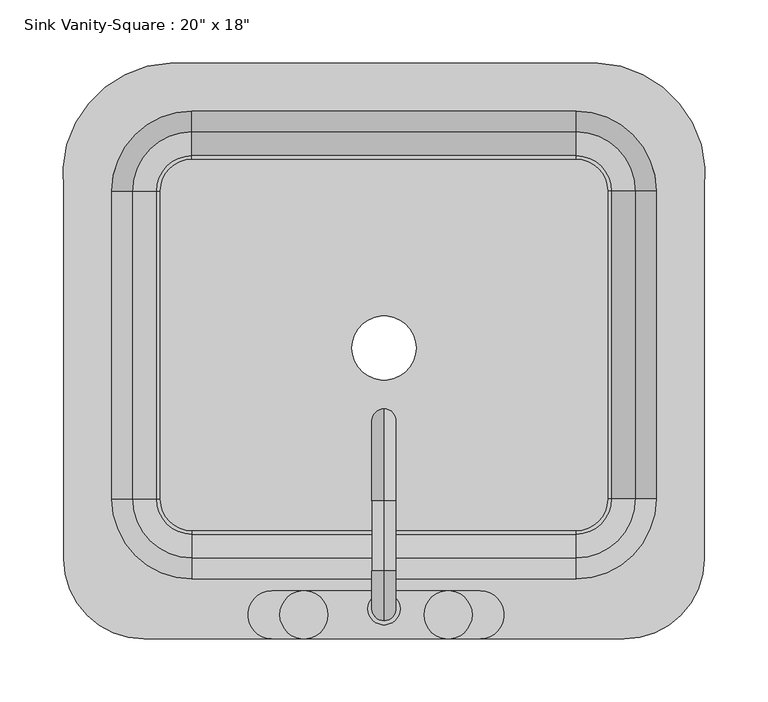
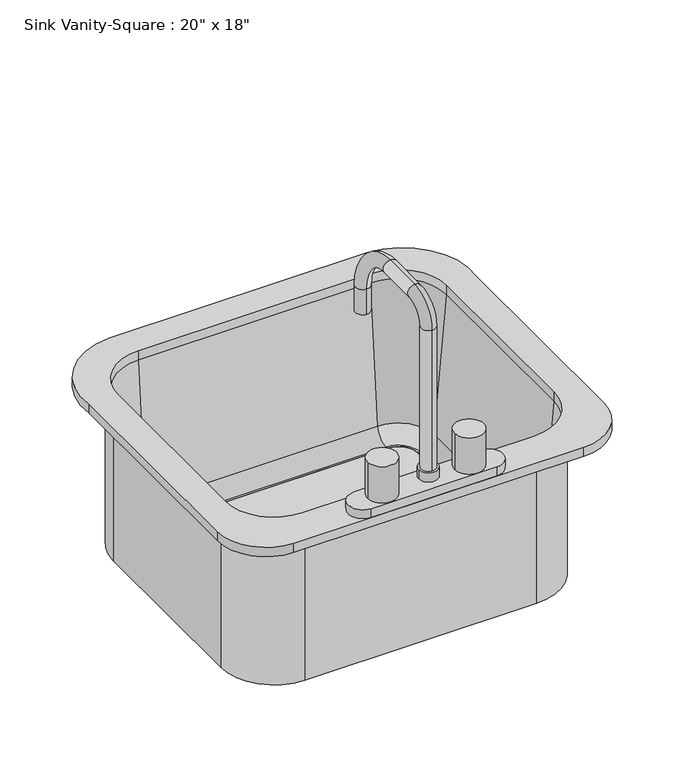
"""IFC4 building model written with IfcOpenShell, lengths in millimetres: flow terminal geometry."""

from ifc_helpers import new_model, si_unit, point, frame, frame_2d, origin, place, context, project, spatial, polyline, circle_curve, ellipse_curve, trimmed, segment, composite_curve, outline, extrude, source, transform, mapped, element, save
from ifc_brep_helpers import plane_surface, cylinder_surface, revolved_surface, advanced_brep


def flow_terminal_4d0de4d3(model_context):
    return source(origin(), model_context, "Body", "SolidModel", [
        advanced_brep(
        [(-153.9606923, 277.0545989, 800.1), (-238.3107593, 175.4545982, 800.1), (-238.3107593, -116.6454011, 800.1), (-174.8107593, -180.1454011, 800.1), (206.1892406, -180.1454011, 800.1), (269.6892406, -116.6454011, 800.1), (269.6892406, 175.4545989, 800.1), (185.3391735, 277.0545989, 800.1), (168.0892406, -132.5204011, 800.1), (-136.7107594, -132.5204011, 800.1), (-200.2107594, -69.0204011, 800.1), (-200.2107594, 175.4545989, 800.1), (-136.7107594, 238.9545989, 800.1), (168.0892406, 238.9545989, 800.1), (231.5892406, 175.4545989, 800.1), (231.5892406, -69.0204011, 800.1), (-153.9606923, 277.0545989, 787.4), (185.3391735, 277.0545989, 787.4), (269.6892406, 175.4545989, 787.4), (269.6892406, -116.6454011, 787.4), (206.1892406, -180.1454011, 787.4), (-174.8107593, -180.1454011, 787.4), (-238.3107593, -116.6454011, 787.4), (-238.3107593, 175.4545982, 787.4), (237.9392406, -69.0204011, 787.4), (237.9392406, 175.4545989, 787.4), (168.0892406, 245.3045989, 787.4), (-136.7107594, 245.3045989, 787.4), (-206.5607594, 175.4545989, 787.4), (-206.5607594, -69.0204011, 787.4), (-136.7107594, -138.8704011, 787.4), (168.0892406, -138.8704011, 787.4), (231.5892406, -69.0204011, 787.4), (168.0892406, -132.5204011, 787.4), (231.5892406, 175.4545989, 787.4), (168.0892406, 238.9545989, 787.4), (-136.7107594, 238.9545989, 787.4), (-200.2107594, 175.4545989, 787.4), (-200.2107594, -69.0204011, 787.4), (-136.7107594, -132.5204011, 787.4), (237.9392406, -69.0204011, 571.5), (168.0892406, -138.8704011, 571.5), (168.0892406, -94.4204011, 571.5), (193.4892406, -69.0204011, 571.5), (168.0892406, -94.4204011, 581.025), (193.4892406, -69.0204011, 581.025), (168.0892406, -97.0088193, 581.025), (196.0776588, -69.0204011, 581.025), (168.0892406, -115.9863283, 598.4146831), (215.0551678, -69.0204011, 598.4146831), (237.9392406, 175.4545989, 571.5), (193.4892406, 175.4545989, 571.5), (193.4892406, 175.4545989, 581.025), (196.0776588, 175.4545989, 581.025), (215.0551678, 175.4545989, 598.4146831), (168.0892406, 245.3045989, 571.5), (168.0892406, 200.8545989, 571.5), (168.0892406, 200.8545989, 581.025), (168.0892406, 203.4430171, 581.025), (168.0892406, 222.4205261, 598.4146831), (-136.7107594, 245.3045989, 571.5), (-136.7107594, 200.8545989, 571.5), (-136.7107594, 200.8545989, 581.025), (-136.7107594, 203.4430171, 581.025), (-136.7107594, 222.4205261, 598.4146831), (-206.5607594, 175.4545989, 571.5), (-162.1107594, 175.4545989, 571.5), (-162.1107594, 175.4545989, 581.025), (-164.6991776, 175.4545989, 581.025), (-183.6766866, 175.4545989, 598.4146831), (-206.5607594, -69.0204011, 571.5), (-162.1107594, -69.0204011, 571.5), (-162.1107594, -69.0204011, 581.025), (-164.6991776, -69.0204011, 581.025), (-183.6766866, -69.0204011, 598.4146831), (-136.7107594, -138.8704011, 571.5), (-136.7107594, -94.4204011, 571.5), (-136.7107594, -94.4204011, 581.025), (-136.7107594, -97.0088193, 581.025), (-136.7107594, -115.9863283, 598.4146831)],
        [
            (0, 1, circle_curve(frame((-150.1534746, 188.0793432, 800.1), z_axis=(0.0, 0.0, 1.0), x_axis=(1.0, 0.0, 0.0)), 89.0566732)),
            (1, 2),
            (2, 3, circle_curve(frame((-174.8107593, -116.6454011, 800.1), z_axis=(0.0, 0.0, 1.0), x_axis=(1.0, 0.0, 0.0)), 63.5)),
            (3, 4),
            (4, 5, circle_curve(frame((206.1892406, -116.6454011, 800.1), z_axis=(0.0, 0.0, 1.0), x_axis=(1.0, 0.0, 0.0)), 63.5)),
            (5, 6),
            (6, 7, circle_curve(frame((181.5319557, 188.0793432, 800.1), z_axis=(0.0, 0.0, 1.0), x_axis=(1.0, 0.0, 0.0)), 89.0566732)),
            (7, 0),
            (8, 9),
            (9, 10, circle_curve(frame((-136.7107594, -69.0204011, 800.1), z_axis=(0.0, 0.0, -1.0), x_axis=(1.0, 0.0, 0.0)), 63.5)),
            (10, 11),
            (11, 12, circle_curve(frame((-136.7107594, 175.4545989, 800.1), z_axis=(0.0, 0.0, -1.0), x_axis=(1.0, 0.0, 0.0)), 63.5)),
            (12, 13),
            (13, 14, circle_curve(frame((168.0892406, 175.4545989, 800.1), z_axis=(0.0, 0.0, -1.0), x_axis=(1.0, 0.0, 0.0)), 63.5)),
            (14, 15),
            (15, 8, circle_curve(frame((168.0892406, -69.0204011, 800.1), z_axis=(0.0, 0.0, -1.0), x_axis=(1.0, 0.0, 0.0)), 63.5)),
            (16, 17),
            (17, 18, circle_curve(frame((181.5319557, 188.0793432, 787.4), z_axis=(0.0, 0.0, -1.0), x_axis=(1.0, 0.0, 0.0)), 89.0566732)),
            (18, 19),
            (19, 20, circle_curve(frame((206.1892406, -116.6454011, 787.4), z_axis=(0.0, 0.0, -1.0), x_axis=(1.0, 0.0, 0.0)), 63.5)),
            (20, 21),
            (21, 22, circle_curve(frame((-174.8107593, -116.6454011, 787.4), z_axis=(0.0, 0.0, -1.0), x_axis=(1.0, 0.0, 0.0)), 63.5)),
            (22, 23),
            (23, 16, circle_curve(frame((-150.1534746, 188.0793432, 787.4), z_axis=(0.0, 0.0, -1.0), x_axis=(1.0, 0.0, 0.0)), 89.0566732)),
            (24, 25),
            (25, 26, circle_curve(frame((168.0892406, 175.4545989, 787.4), z_axis=(0.0, 0.0, 1.0), x_axis=(1.0, 0.0, 0.0)), 69.85)),
            (26, 27),
            (27, 28, circle_curve(frame((-136.7107594, 175.4545989, 787.4), z_axis=(0.0, 0.0, 1.0), x_axis=(0.0, 1.0, 0.0)), 69.85)),
            (28, 29),
            (29, 30, circle_curve(frame((-136.7107594, -69.0204011, 787.4), z_axis=(0.0, 0.0, 1.0), x_axis=(-1.0, 0.0, 0.0)), 69.85)),
            (30, 31),
            (31, 24, circle_curve(frame((168.0892406, -69.0204011, 787.4), z_axis=(0.0, 0.0, 1.0), x_axis=(0.0, -1.0, 0.0)), 69.85)),
            (7, 17),
            (16, 0),
            (6, 18),
            (5, 19),
            (4, 20),
            (3, 21),
            (2, 22),
            (1, 23),
            (15, 32),
            (32, 33, circle_curve(frame((168.0892406, -69.0204011, 787.4), z_axis=(0.0, 0.0, -1.0), x_axis=(1.0, 0.0, 0.0)), 63.5)),
            (33, 8),
            (14, 34),
            (34, 32),
            (13, 35),
            (35, 34, circle_curve(frame((168.0892406, 175.4545989, 787.4), z_axis=(0.0, 0.0, -1.0), x_axis=(1.0, 0.0, 0.0)), 63.5)),
            (12, 36),
            (36, 35),
            (11, 37),
            (37, 36, circle_curve(frame((-136.7107594, 175.4545989, 787.4), z_axis=(0.0, 0.0, -1.0), x_axis=(1.0, 0.0, 0.0)), 63.5)),
            (10, 38),
            (38, 37),
            (9, 39),
            (39, 38, circle_curve(frame((-136.7107594, -69.0204011, 787.4), z_axis=(0.0, 0.0, -1.0), x_axis=(1.0, 0.0, 0.0)), 63.5)),
            (33, 39),
            (40, 24),
            (31, 41),
            (41, 40, circle_curve(frame((168.0892406, -69.0204011, 571.5), z_axis=(0.0, 0.0, 1.0), x_axis=(0.0, -1.0, 0.0)), 69.85)),
            (41, 42),
            (42, 43, circle_curve(frame((168.0892406, -69.0204011, 571.5), z_axis=(0.0, 0.0, 1.0), x_axis=(0.0, -1.0, 0.0)), 25.4)),
            (43, 40),
            (42, 44),
            (44, 45, circle_curve(frame((168.0892406, -69.0204011, 581.025), z_axis=(0.0, 0.0, 1.0), x_axis=(0.0, -1.0, 0.0)), 25.4)),
            (45, 43),
            (44, 46),
            (46, 47, circle_curve(frame((168.0892406, -69.0204011, 581.025), z_axis=(0.0, 0.0, 1.0), x_axis=(0.0, -1.0, 0.0)), 27.9884182)),
            (47, 45),
            (46, 48, circle_curve(frame((168.0892406, -97.0088193, 600.075), z_axis=(-1.0, 0.0, 0.0), x_axis=(0.0, -1.0, 0.0)), 19.05)),
            (48, 49, circle_curve(frame((168.0892406, -69.0204011, 598.4146831), z_axis=(0.0, 0.0, 1.0), x_axis=(0.0, -1.0, 0.0)), 46.9659272)),
            (49, 47, circle_curve(frame((196.0776588, -69.0204011, 600.075), z_axis=(0.0, 1.0, 0.0), x_axis=(1.0, 0.0, 0.0)), 19.05)),
            (48, 33),
            (32, 49),
            (40, 50),
            (50, 25),
            (43, 51),
            (51, 50),
            (45, 52),
            (52, 51),
            (47, 53),
            (53, 52),
            (49, 54),
            (54, 53, circle_curve(frame((196.0776588, 175.4545989, 600.075), z_axis=(0.0, 1.0, 0.0), x_axis=(1.0, 0.0, 0.0)), 19.05)),
            (34, 54),
            (50, 55, circle_curve(frame((168.0892406, 175.4545989, 571.5), z_axis=(0.0, 0.0, 1.0), x_axis=(1.0, 0.0, 0.0)), 69.85)),
            (55, 26),
            (51, 56, circle_curve(frame((168.0892406, 175.4545989, 571.5), z_axis=(0.0, 0.0, 1.0), x_axis=(1.0, 0.0, 0.0)), 25.4)),
            (56, 55),
            (52, 57, circle_curve(frame((168.0892406, 175.4545989, 581.025), z_axis=(0.0, 0.0, 1.0), x_axis=(1.0, 0.0, 0.0)), 25.4)),
            (57, 56),
            (53, 58, circle_curve(frame((168.0892406, 175.4545989, 581.025), z_axis=(0.0, 0.0, 1.0), x_axis=(1.0, 0.0, 0.0)), 27.9884182)),
            (58, 57),
            (54, 59, circle_curve(frame((168.0892406, 175.4545989, 598.4146831), z_axis=(0.0, 0.0, 1.0), x_axis=(1.0, 0.0, 0.0)), 46.9659272)),
            (59, 58, circle_curve(frame((168.0892406, 203.4430171, 600.075), z_axis=(-1.0, 0.0, 0.0), x_axis=(0.0, 1.0, 0.0)), 19.05)),
            (35, 59),
            (55, 60),
            (60, 27),
            (56, 61),
            (61, 60),
            (57, 62),
            (62, 61),
            (58, 63),
            (63, 62),
            (59, 64),
            (64, 63, circle_curve(frame((-136.7107594, 203.4430171, 600.075), z_axis=(-1.0, 0.0, 0.0), x_axis=(0.0, 1.0, 0.0)), 19.05)),
            (36, 64),
            (60, 65, circle_curve(frame((-136.7107594, 175.4545989, 571.5), z_axis=(0.0, 0.0, 1.0), x_axis=(0.0, 1.0, 0.0)), 69.85)),
            (65, 28),
            (61, 66, circle_curve(frame((-136.7107594, 175.4545989, 571.5), z_axis=(0.0, 0.0, 1.0), x_axis=(0.0, 1.0, 0.0)), 25.4)),
            (66, 65),
            (62, 67, circle_curve(frame((-136.7107594, 175.4545989, 581.025), z_axis=(0.0, 0.0, 1.0), x_axis=(0.0, 1.0, 0.0)), 25.4)),
            (67, 66),
            (63, 68, circle_curve(frame((-136.7107594, 175.4545989, 581.025), z_axis=(0.0, 0.0, 1.0), x_axis=(0.0, 1.0, 0.0)), 27.9884182)),
            (68, 67),
            (64, 69, circle_curve(frame((-136.7107594, 175.4545989, 598.4146831), z_axis=(0.0, 0.0, 1.0), x_axis=(0.0, 1.0, 0.0)), 46.9659272)),
            (69, 68, circle_curve(frame((-164.6991776, 175.4545989, 600.075), z_axis=(0.0, -1.0, 0.0), x_axis=(-1.0, 0.0, 0.0)), 19.05)),
            (37, 69),
            (65, 70),
            (70, 29),
            (66, 71),
            (71, 70),
            (67, 72),
            (72, 71),
            (68, 73),
            (73, 72),
            (69, 74),
            (74, 73, circle_curve(frame((-164.6991776, -69.0204011, 600.075), z_axis=(0.0, -1.0, 0.0), x_axis=(-1.0, 0.0, 0.0)), 19.05)),
            (38, 74),
            (70, 75, circle_curve(frame((-136.7107594, -69.0204011, 571.5), z_axis=(0.0, 0.0, 1.0), x_axis=(-1.0, 0.0, 0.0)), 69.85)),
            (75, 30),
            (71, 76, circle_curve(frame((-136.7107594, -69.0204011, 571.5), z_axis=(0.0, 0.0, 1.0), x_axis=(-1.0, 0.0, 0.0)), 25.4)),
            (76, 75),
            (72, 77, circle_curve(frame((-136.7107594, -69.0204011, 581.025), z_axis=(0.0, 0.0, 1.0), x_axis=(-1.0, 0.0, 0.0)), 25.4)),
            (77, 76),
            (73, 78, circle_curve(frame((-136.7107594, -69.0204011, 581.025), z_axis=(0.0, 0.0, 1.0), x_axis=(-1.0, 0.0, 0.0)), 27.9884182)),
            (78, 77),
            (74, 79, circle_curve(frame((-136.7107594, -69.0204011, 598.4146831), z_axis=(0.0, 0.0, 1.0), x_axis=(-1.0, 0.0, 0.0)), 46.9659272)),
            (79, 78, circle_curve(frame((-136.7107594, -97.0088193, 600.075), z_axis=(1.0, 0.0, 0.0), x_axis=(0.0, -1.0, 0.0)), 19.05)),
            (39, 79),
            (75, 41),
            (76, 42),
            (77, 44),
            (78, 46),
            (79, 48),
        ],
        [
            plane_surface(frame((185.3391735, 277.0545989, 800.1), z_axis=(0.0, 0.0, 1.0), x_axis=(1.0, 0.0, 0.0))),
            plane_surface(frame((185.3391735, 277.0545989, 787.4), z_axis=(0.0, 0.0, -1.0), x_axis=(-1.0, 0.0, 0.0))),
            plane_surface(frame((-153.9606923, 277.0545989, 800.1), z_axis=(0.0, 1.0, 0.0), x_axis=(0.0, 0.0, -1.0))),
            cylinder_surface(frame((181.5319557, 188.0793432, 787.4), z_axis=(0.0, 0.0, 1.0), x_axis=(1.0, 0.0, 0.0)), 89.0566732),
            plane_surface(frame((269.6892406, 175.4545989, 800.1), z_axis=(1.0, 0.0, 0.0), x_axis=(0.0, 0.0, -1.0))),
            cylinder_surface(frame((206.1892406, -116.6454011, 787.4), z_axis=(0.0, 0.0, 1.0), x_axis=(1.0, 0.0, 0.0)), 63.5),
            plane_surface(frame((206.1892406, -180.1454011, 800.1), z_axis=(0.0, -1.0, 0.0), x_axis=(0.0, 0.0, -1.0))),
            cylinder_surface(frame((-174.8107593, -116.6454011, 787.4), z_axis=(0.0, 0.0, 1.0), x_axis=(1.0, 0.0, 0.0)), 63.5),
            plane_surface(frame((-238.3107593, -116.6454011, 800.1), z_axis=(-1.0, 0.0, 0.0), x_axis=(0.0, 0.0, -1.0))),
            cylinder_surface(frame((-150.1534746, 188.0793432, 787.4), z_axis=(0.0, 0.0, 1.0), x_axis=(1.0, 0.0, 0.0)), 89.0566732),
            revolved_surface(polyline([(231.5892406, -69.0204011, 787.4), (231.5892406, -69.0204011, 800.1)]), (168.0892406, -69.0204011, 0.0), (0.0, 0.0, -1.0)),
            plane_surface(frame((231.5892406, -69.0204011, 800.1), z_axis=(-1.0, 0.0, 0.0), x_axis=(0.0, 0.0, -1.0))),
            revolved_surface(polyline([(231.5892406, 175.4545989, 787.4), (231.5892406, 175.4545989, 800.1)]), (168.0892406, 175.4545989, 0.0), (0.0, 0.0, -1.0)),
            plane_surface(frame((168.0892406, 238.9545989, 800.1), z_axis=(0.0, -1.0, 0.0), x_axis=(0.0, 0.0, -1.0))),
            revolved_surface(polyline([(-73.2107594, 175.4545989, 787.4), (-73.2107594, 175.4545989, 800.1)]), (-136.7107594, 175.4545989, 0.0), (0.0, 0.0, -1.0)),
            plane_surface(frame((-200.2107594, 175.4545989, 800.1), z_axis=(1.0, 0.0, 0.0), x_axis=(0.0, 0.0, -1.0))),
            revolved_surface(polyline([(-73.2107594, -69.0204011, 787.4), (-73.2107594, -69.0204011, 800.1)]), (-136.7107594, -69.0204011, 0.0), (0.0, 0.0, -1.0)),
            plane_surface(frame((-136.7107594, -132.5204011, 800.1), z_axis=(0.0, 1.0, 0.0), x_axis=(0.0, 0.0, -1.0))),
            cylinder_surface(frame((168.0892406, -69.0204011, 0.0), z_axis=(0.0, 0.0, -1.0), x_axis=(0.0, -1.0, 0.0)), 69.85),
            plane_surface(frame((168.0892406, -69.0204011, 571.5), z_axis=(0.0, 0.0, -1.0), x_axis=(0.0, -1.0, 0.0))),
            revolved_surface(polyline([(168.0892406, -94.42040109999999, 571.5), (168.0892406, -94.42040109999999, 581.025)]), (168.0892406, -69.0204011, 0.0), (0.0, 0.0, -1.0)),
            plane_surface(frame((168.0892406, -69.0204011, 581.025), z_axis=(0.0, 0.0, 1.0), x_axis=(0.0, -1.0, 0.0))),
            revolved_surface(trimmed(ellipse_curve(frame((168.0892406, -97.0088193, 600.075), z_axis=(-1.0, 0.0, 0.0), x_axis=(0.0, -1.0, 0.0)), 19.05, 19.05), [point((168.0892406, -97.0088193, 581.025))], [point((168.0892406, -115.9863283, 598.4146831))], True, "CARTESIAN"), (168.0892406, -69.0204011, 0.0), (0.0, 0.0, -1.0)),
            revolved_surface(polyline([(168.0892406, -115.9863283, 598.4146831), (168.0892406, -132.5204011, 787.4)]), (168.0892406, -69.0204011, 0.0), (0.0, 0.0, -1.0)),
            plane_surface(frame((237.9392406, -69.0204011, 787.4), z_axis=(1.0, 0.0, 0.0), x_axis=(0.0, 1.0, 0.0))),
            plane_surface(frame((237.9392406, -69.0204011, 571.5), z_axis=(0.0, 0.0, -1.0), x_axis=(0.0, 1.0, 0.0))),
            plane_surface(frame((193.4892406, -69.0204011, 571.5), z_axis=(-1.0, 0.0, 0.0), x_axis=(0.0, 1.0, 0.0))),
            plane_surface(frame((193.4892406, -69.0204011, 581.025), z_axis=(0.0, 0.0, 1.0), x_axis=(0.0, 1.0, 0.0))),
            revolved_surface(polyline([(215.1276588, 175.4545989, 600.075), (215.1276588, -69.0204011, 600.075)]), (196.0776588, -69.0204011, 600.075), (0.0, 1.0, 0.0)),
            plane_surface(frame((215.0551678, -69.0204011, 598.4146831), z_axis=(-0.9961946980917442, 0.0, 0.08715574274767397), x_axis=(0.0, 1.0, 0.0))),
            cylinder_surface(frame((168.0892406, 175.4545989, 0.0), z_axis=(0.0, 0.0, -1.0), x_axis=(1.0, 0.0, 0.0)), 69.85),
            plane_surface(frame((168.0892406, 175.4545989, 571.5), z_axis=(0.0, 0.0, -1.0), x_axis=(1.0, 0.0, 0.0))),
            revolved_surface(polyline([(193.48924060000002, 175.4545989, 571.5), (193.48924060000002, 175.4545989, 581.025)]), (168.0892406, 175.4545989, 0.0), (0.0, 0.0, -1.0)),
            plane_surface(frame((168.0892406, 175.4545989, 581.025), z_axis=(0.0, 0.0, 1.0), x_axis=(1.0, 0.0, 0.0))),
            revolved_surface(trimmed(ellipse_curve(frame((196.0776588, 175.4545989, 600.075), z_axis=(0.0, -1.0, 0.0), x_axis=(1.0, 0.0, 0.0)), 19.05, 19.05), [point((196.0776588, 175.4545989, 581.025))], [point((215.0551678, 175.4545989, 598.4146831))], True, "CARTESIAN"), (168.0892406, 175.4545989, 0.0), (0.0, 0.0, -1.0)),
            revolved_surface(polyline([(215.0551678, 175.4545989, 598.4146831), (231.5892406, 175.4545989, 787.4)]), (168.0892406, 175.4545989, 0.0), (0.0, 0.0, -1.0)),
            plane_surface(frame((168.0892406, 245.3045989, 787.4), z_axis=(0.0, 1.0, 0.0), x_axis=(-1.0, 0.0, 0.0))),
            plane_surface(frame((168.0892406, 245.3045989, 571.5), z_axis=(0.0, 0.0, -1.0), x_axis=(-1.0, 0.0, 0.0))),
            plane_surface(frame((168.0892406, 200.8545989, 571.5), z_axis=(0.0, -1.0, 0.0), x_axis=(-1.0, 0.0, 0.0))),
            plane_surface(frame((168.0892406, 200.8545989, 581.025), z_axis=(0.0, 0.0, 1.0), x_axis=(-1.0, 0.0, 0.0))),
            revolved_surface(polyline([(-136.7107594, 222.4930171, 600.075), (168.0892406, 222.4930171, 600.075)]), (168.0892406, 203.4430171, 600.075), (-1.0, 0.0, 0.0)),
            plane_surface(frame((168.0892406, 222.4205261, 598.4146831), z_axis=(0.0, -0.9961946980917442, 0.08715574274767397), x_axis=(-1.0, 0.0, 0.0))),
            cylinder_surface(frame((-136.7107594, 175.4545989, 0.0), z_axis=(0.0, 0.0, -1.0), x_axis=(0.0, 1.0, 0.0)), 69.85),
            plane_surface(frame((-136.7107594, 175.4545989, 571.5), z_axis=(0.0, 0.0, -1.0), x_axis=(0.0, 1.0, 0.0))),
            revolved_surface(polyline([(-136.7107594, 200.8545989, 571.5), (-136.7107594, 200.8545989, 581.025)]), (-136.7107594, 175.4545989, 0.0), (0.0, 0.0, -1.0)),
            plane_surface(frame((-136.7107594, 175.4545989, 581.025), z_axis=(0.0, 0.0, 1.0), x_axis=(0.0, 1.0, 0.0))),
            revolved_surface(trimmed(ellipse_curve(frame((-136.7107594, 203.4430171, 600.075), z_axis=(1.0, 0.0, 0.0), x_axis=(0.0, 1.0, 0.0)), 19.05, 19.05), [point((-136.7107594, 203.4430171, 581.025))], [point((-136.7107594, 222.4205261, 598.4146831))], True, "CARTESIAN"), (-136.7107594, 175.4545989, 0.0), (0.0, 0.0, -1.0)),
            revolved_surface(polyline([(-136.7107594, 222.4205261, 598.4146831), (-136.7107594, 238.9545989, 787.4)]), (-136.7107594, 175.4545989, 0.0), (0.0, 0.0, -1.0)),
            plane_surface(frame((-206.5607594, 175.4545989, 787.4), z_axis=(-1.0, 0.0, 0.0), x_axis=(0.0, -1.0, 0.0))),
            plane_surface(frame((-206.5607594, 175.4545989, 571.5), z_axis=(0.0, 0.0, -1.0), x_axis=(0.0, -1.0, 0.0))),
            plane_surface(frame((-162.1107594, 175.4545989, 571.5), z_axis=(1.0, 0.0, 0.0), x_axis=(0.0, -1.0, 0.0))),
            plane_surface(frame((-162.1107594, 175.4545989, 581.025), z_axis=(0.0, 0.0, 1.0), x_axis=(0.0, -1.0, 0.0))),
            revolved_surface(polyline([(-183.74917760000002, -69.02040110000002, 600.075), (-183.74917760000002, 175.4545989, 600.075)]), (-164.6991776, 175.4545989, 600.075), (0.0, -1.0, 0.0)),
            plane_surface(frame((-183.6766866, 175.4545989, 598.4146831), z_axis=(0.9961946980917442, 0.0, 0.08715574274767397), x_axis=(0.0, -1.0, 0.0))),
            cylinder_surface(frame((-136.7107594, -69.0204011, 0.0), z_axis=(0.0, 0.0, -1.0), x_axis=(-1.0, 0.0, 0.0)), 69.85),
            plane_surface(frame((-136.7107594, -69.0204011, 571.5), z_axis=(0.0, 0.0, -1.0), x_axis=(-1.0, 0.0, 0.0))),
            revolved_surface(polyline([(-162.1107594, -69.0204011, 571.5), (-162.1107594, -69.0204011, 581.025)]), (-136.7107594, -69.0204011, 0.0), (0.0, 0.0, -1.0)),
            plane_surface(frame((-136.7107594, -69.0204011, 581.025), z_axis=(0.0, 0.0, 1.0), x_axis=(-1.0, 0.0, 0.0))),
            revolved_surface(trimmed(ellipse_curve(frame((-164.6991776, -69.0204011, 600.075), z_axis=(0.0, 1.0, 0.0), x_axis=(-1.0, 0.0, 0.0)), 19.05, 19.05), [point((-164.6991776, -69.0204011, 581.025))], [point((-183.6766866, -69.0204011, 598.4146831))], True, "CARTESIAN"), (-136.7107594, -69.0204011, 0.0), (0.0, 0.0, -1.0)),
            revolved_surface(polyline([(-183.6766866, -69.0204011, 598.4146831), (-200.2107594, -69.0204011, 787.4)]), (-136.7107594, -69.0204011, 0.0), (0.0, 0.0, -1.0)),
            plane_surface(frame((-136.7107594, -138.8704011, 787.4), z_axis=(0.0, -1.0, 0.0), x_axis=(1.0, 0.0, 0.0))),
            plane_surface(frame((-136.7107594, -138.8704011, 571.5), z_axis=(0.0, 0.0, -1.0), x_axis=(1.0, 0.0, 0.0))),
            plane_surface(frame((-136.7107594, -94.4204011, 571.5), z_axis=(0.0, 1.0, 0.0), x_axis=(1.0, 0.0, 0.0))),
            plane_surface(frame((-136.7107594, -94.4204011, 581.025), z_axis=(0.0, 0.0, 1.0), x_axis=(1.0, 0.0, 0.0))),
            revolved_surface(polyline([(168.0892406, -116.0588193, 600.075), (-136.7107594, -116.0588193, 600.075)]), (-136.7107594, -97.0088193, 600.075), (1.0, 0.0, 0.0)),
            plane_surface(frame((-136.7107594, -115.9863283, 598.4146831), z_axis=(0.0, 0.9961946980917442, 0.08715574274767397), x_axis=(1.0, 0.0, 0.0))),
        ],
        [
            (0, [[1, 2, 3, 4, 5, 6, 7, 8], [9, 10, 11, 12, 13, 14, 15, 16]]),
            (1, [[17, 18, 19, 20, 21, 22, 23, 24], [25, 26, 27, 28, 29, 30, 31, 32]]),
            (2, [[33, -17, 34, -8]]),
            (3, [[35, -18, -33, -7]]),
            (4, [[36, -19, -35, -6]]),
            (5, [[37, -20, -36, -5]]),
            (6, [[38, -21, -37, -4]]),
            (7, [[39, -22, -38, -3]]),
            (8, [[40, -23, -39, -2]]),
            (9, [[-34, -24, -40, -1]]),
            (10, [[41, 42, 43, -16]]),
            (11, [[44, 45, -41, -15]]),
            (12, [[46, 47, -44, -14]]),
            (13, [[48, 49, -46, -13]]),
            (14, [[50, 51, -48, -12]]),
            (15, [[52, 53, -50, -11]]),
            (16, [[54, 55, -52, -10]]),
            (17, [[-43, 56, -54, -9]]),
            (18, [[57, -32, 58, 59]]),
            (19, [[60, 61, 62, -59]]),
            (20, [[63, 64, 65, -61]]),
            (21, [[66, 67, 68, -64]]),
            (22, [[69, 70, 71, -67]]),
            (23, [[72, -42, 73, -70]]),
            (24, [[74, 75, -25, -57]]),
            (25, [[76, 77, -74, -62]]),
            (26, [[78, 79, -76, -65]]),
            (27, [[80, 81, -78, -68]]),
            (28, [[82, 83, -80, -71]]),
            (29, [[-45, 84, -82, -73]]),
            (30, [[85, 86, -26, -75]]),
            (31, [[87, 88, -85, -77]]),
            (32, [[89, 90, -87, -79]]),
            (33, [[91, 92, -89, -81]]),
            (34, [[93, 94, -91, -83]]),
            (35, [[-47, 95, -93, -84]]),
            (36, [[96, 97, -27, -86]]),
            (37, [[98, 99, -96, -88]]),
            (38, [[100, 101, -98, -90]]),
            (39, [[102, 103, -100, -92]]),
            (40, [[104, 105, -102, -94]]),
            (41, [[-49, 106, -104, -95]]),
            (42, [[107, 108, -28, -97]]),
            (43, [[109, 110, -107, -99]]),
            (44, [[111, 112, -109, -101]]),
            (45, [[113, 114, -111, -103]]),
            (46, [[115, 116, -113, -105]]),
            (47, [[-51, 117, -115, -106]]),
            (48, [[118, 119, -29, -108]]),
            (49, [[120, 121, -118, -110]]),
            (50, [[122, 123, -120, -112]]),
            (51, [[124, 125, -122, -114]]),
            (52, [[126, 127, -124, -116]]),
            (53, [[-53, 128, -126, -117]]),
            (54, [[129, 130, -30, -119]]),
            (55, [[131, 132, -129, -121]]),
            (56, [[133, 134, -131, -123]]),
            (57, [[135, 136, -133, -125]]),
            (58, [[137, 138, -135, -127]]),
            (59, [[-55, 139, -137, -128]]),
            (60, [[-31, -130, 140, -58]]),
            (61, [[-140, -132, 141, -60]]),
            (62, [[-141, -134, 142, -63]]),
            (63, [[-142, -136, 143, -66]]),
            (64, [[-143, -138, 144, -69]]),
            (65, [[-144, -139, -56, -72]]),
        ],
    ),
        advanced_brep(
        [(91.8892406, -180.1454011, 800.1), (-73.2107594, -180.1454011, 800.1), (-73.2107594, -142.0454011, 800.1), (91.8892406, -142.0454011, 800.1), (15.6892406, -165.8579011, 1020.7625), (15.6892406, -165.8579011, 825.5), (15.6892406, -146.8079011, 825.5), (15.6892406, -146.8079011, 1020.7625), (15.6892406, -126.1704011, 1041.4), (15.6892406, -126.1704011, 1060.45), (15.6892406, -70.6079011, 1041.4), (15.6892406, -70.6079011, 1060.45), (15.6892406, -16.6329011, 987.425), (15.6892406, 2.4170989, 987.425), (15.6892406, 2.4170989, 952.5), (15.6892406, -16.6329011, 952.5), (2.9892406, -156.3329011, 825.5), (28.3892406, -156.3329011, 825.5), (28.3892406, -156.3329011, 812.8), (2.9892406, -156.3329011, 812.8), (91.8892406, -180.1454011, 812.8), (91.8892406, -142.0454011, 812.8), (-73.2107594, -142.0454011, 812.8), (-73.2107594, -180.1454011, 812.8)],
        [
            (0, 1),
            (1, 2, circle_curve(frame((-73.2107594, -161.0954011, 800.1), z_axis=(0.0, 0.0, -1.0), x_axis=(1.0, 0.0, 0.0)), 19.05)),
            (2, 3),
            (3, 0, circle_curve(frame((91.8892406, -161.0954011, 800.1), z_axis=(0.0, 0.0, -1.0), x_axis=(1.0, 0.0, 0.0)), 19.05)),
            (4, 5),
            (5, 6, circle_curve(frame((15.6892406, -156.3329011, 825.5), z_axis=(0.0, 0.0, 1.0), x_axis=(0.0, 1.0, 0.0)), 9.525)),
            (6, 7),
            (7, 4, circle_curve(frame((15.6892406, -156.3329011, 1020.7625), z_axis=(0.0, 0.0, -1.0), x_axis=(0.0, 1.0, 0.0)), 9.525)),
            (6, 5, circle_curve(frame((15.6892406, -156.3329011, 825.5), z_axis=(0.0, 0.0, 1.0), x_axis=(0.0, 1.0, 0.0)), 9.525)),
            (4, 7, circle_curve(frame((15.6892406, -156.3329011, 1020.7625), z_axis=(0.0, 0.0, -1.0), x_axis=(0.0, 1.0, 0.0)), 9.525)),
            (7, 8, circle_curve(frame((15.6892406, -126.1704011, 1020.7625), z_axis=(-1.0, 0.0, 0.0), x_axis=(0.0, -1.0, 0.0)), 20.6375)),
            (8, 9, circle_curve(frame((15.6892406, -126.1704011, 1050.925), z_axis=(0.0, -1.0, 0.0), x_axis=(0.0, 0.0, -1.0)), 9.525)),
            (9, 4, circle_curve(frame((15.6892406, -126.1704011, 1020.7625), z_axis=(1.0, 0.0, 0.0), x_axis=(0.0, -1.0, 0.0)), 39.6875)),
            (9, 8, circle_curve(frame((15.6892406, -126.1704011, 1050.925), z_axis=(0.0, -1.0, 0.0), x_axis=(0.0, 0.0, -1.0)), 9.525)),
            (8, 10),
            (10, 11, circle_curve(frame((15.6892406, -70.6079011, 1050.925), z_axis=(0.0, -1.0, 0.0), x_axis=(0.0, 0.0, -1.0)), 9.525)),
            (11, 9),
            (11, 10, circle_curve(frame((15.6892406, -70.6079011, 1050.925), z_axis=(0.0, -1.0, 0.0), x_axis=(0.0, 0.0, -1.0)), 9.525)),
            (10, 12, circle_curve(frame((15.6892406, -70.6079011, 987.425), z_axis=(-1.0, 0.0, 0.0), x_axis=(0.0, 0.0, 1.0)), 53.975)),
            (12, 13, circle_curve(frame((15.6892406, -7.1079011, 987.425), z_axis=(0.0, 0.0, 1.0), x_axis=(0.0, -1.0, 0.0)), 9.525)),
            (13, 11, circle_curve(frame((15.6892406, -70.6079011, 987.425), z_axis=(1.0, 0.0, 0.0), x_axis=(0.0, 0.0, 1.0)), 73.025)),
            (13, 12, circle_curve(frame((15.6892406, -7.1079011, 987.425), z_axis=(0.0, 0.0, 1.0), x_axis=(0.0, -1.0, 0.0)), 9.525)),
            (14, 15, circle_curve(frame((15.6892406, -7.1079011, 952.5), z_axis=(0.0, 0.0, -1.0), x_axis=(0.0, -1.0, 0.0)), 9.525)),
            (15, 14, circle_curve(frame((15.6892406, -7.1079011, 952.5), z_axis=(0.0, 0.0, -1.0), x_axis=(0.0, -1.0, 0.0)), 9.525)),
            (12, 15),
            (14, 13),
            (16, 17, circle_curve(frame((15.6892406, -156.3329011, 825.5), z_axis=(0.0, 0.0, 1.0), x_axis=(1.0, 0.0, 0.0)), 12.7)),
            (17, 16, circle_curve(frame((15.6892406, -156.3329011, 825.5), z_axis=(0.0, 0.0, 1.0), x_axis=(1.0, 0.0, 0.0)), 12.7)),
            (17, 18),
            (18, 19, circle_curve(frame((15.6892406, -156.3329011, 812.8), z_axis=(0.0, 0.0, 1.0), x_axis=(1.0, 0.0, 0.0)), 12.7)),
            (19, 16),
            (19, 18, circle_curve(frame((15.6892406, -156.3329011, 812.8), z_axis=(0.0, 0.0, 1.0), x_axis=(1.0, 0.0, 0.0)), 12.7)),
            (20, 21, circle_curve(frame((91.8892406, -161.0954011, 812.8), z_axis=(0.0, 0.0, 1.0), x_axis=(1.0, 0.0, 0.0)), 19.05)),
            (21, 22),
            (22, 23, circle_curve(frame((-73.2107594, -161.0954011, 812.8), z_axis=(0.0, 0.0, 1.0), x_axis=(1.0, 0.0, 0.0)), 19.05)),
            (23, 20),
            (23, 1),
            (0, 20),
            (22, 2),
            (21, 3),
        ],
        [
            plane_surface(frame((15.6892406, -146.8079011, 800.1), z_axis=(0.0, 0.0, -1.0), x_axis=(1.0, 0.0, 0.0))),
            cylinder_surface(frame((15.6892406, -156.3329011, 800.1), z_axis=(0.0, 0.0, -1.0), x_axis=(0.0, 1.0, 0.0)), 9.525),
            revolved_surface(trimmed(ellipse_curve(frame((15.6892406, -156.3329011, 1020.7625), z_axis=(0.0, 0.0, 1.0), x_axis=(0.0, 1.0, 0.0)), 9.525, 9.525), [point((15.6892406, -165.8579011, 1020.7625))], [point((15.6892406, -146.8079011, 1020.7625))], True, "CARTESIAN"), (15.6892406, -126.1704011, 1020.7625), (1.0, 0.0, 0.0)),
            revolved_surface(trimmed(ellipse_curve(frame((15.6892406, -156.3329011, 1020.7625), z_axis=(0.0, 0.0, 1.0), x_axis=(0.0, 1.0, 0.0)), 9.525, 9.525), [point((15.6892406, -146.8079011, 1020.7625))], [point((15.6892406, -165.8579011, 1020.7625))], True, "CARTESIAN"), (15.6892406, -126.1704011, 1020.7625), (1.0, 0.0, 0.0)),
            cylinder_surface(frame((15.6892406, -126.1704011, 1050.925), z_axis=(0.0, -1.0, 0.0), x_axis=(0.0, 0.0, -1.0)), 9.525),
            revolved_surface(trimmed(ellipse_curve(frame((15.6892406, -70.6079011, 1050.925), z_axis=(0.0, 1.0, 0.0), x_axis=(0.0, 0.0, -1.0)), 9.525, 9.525), [point((15.6892406, -70.6079011, 1060.45))], [point((15.6892406, -70.6079011, 1041.4))], True, "CARTESIAN"), (15.6892406, -70.6079011, 987.425), (1.0, 0.0, 0.0)),
            revolved_surface(trimmed(ellipse_curve(frame((15.6892406, -70.6079011, 1050.925), z_axis=(0.0, 1.0, 0.0), x_axis=(0.0, 0.0, -1.0)), 9.525, 9.525), [point((15.6892406, -70.6079011, 1041.4))], [point((15.6892406, -70.6079011, 1060.45))], True, "CARTESIAN"), (15.6892406, -70.6079011, 987.425), (1.0, 0.0, 0.0)),
            plane_surface(frame((15.6892406, 2.4170989, 952.5), z_axis=(0.0, 0.0, -1.0), x_axis=(-1.0, 0.0, 0.0))),
            cylinder_surface(frame((15.6892406, -7.1079011, 987.425), z_axis=(0.0, 0.0, 1.0), x_axis=(0.0, -1.0, 0.0)), 9.525),
            plane_surface(frame((28.3892406, -156.3329011, 825.5), z_axis=(0.0, 0.0, 1.0), x_axis=(0.0, -1.0, 0.0))),
            cylinder_surface(frame((15.6892406, -156.3329011, 812.8), z_axis=(0.0, 0.0, 1.0), x_axis=(1.0, 0.0, 0.0)), 12.7),
            plane_surface(frame((-73.2107594, -180.1454011, 812.8), z_axis=(0.0, 0.0, 1.0), x_axis=(-1.0, 0.0, 0.0))),
            plane_surface(frame((91.8892406, -180.1454011, 812.8), z_axis=(0.0, -1.0, 0.0), x_axis=(0.0, 0.0, -1.0))),
            cylinder_surface(frame((-73.2107594, -161.0954011, 800.1), z_axis=(0.0, 0.0, 1.0), x_axis=(1.0, 0.0, 0.0)), 19.05),
            plane_surface(frame((-73.2107594, -142.0454011, 812.8), z_axis=(0.0, 1.0, 0.0), x_axis=(0.0, 0.0, -1.0))),
            cylinder_surface(frame((91.8892406, -161.0954011, 800.1), z_axis=(0.0, 0.0, 1.0), x_axis=(1.0, 0.0, 0.0)), 19.05),
        ],
        [
            (0, [[1, 2, 3, 4]]),
            (1, [[5, 6, 7, 8]]),
            (1, [[-7, 9, -5, 10]]),
            (2, [[11, 12, 13, -8]]),
            (3, [[-13, 14, -11, -10]]),
            (4, [[15, 16, 17, -12]]),
            (4, [[-17, 18, -15, -14]]),
            (5, [[19, 20, 21, -16]]),
            (6, [[-21, 22, -19, -18]]),
            (7, [[23, 24]]),
            (8, [[25, -23, 26, -20]]),
            (8, [[-26, -24, -25, -22]]),
            (9, [[27, 28], [-9, -6]]),
            (10, [[29, 30, 31, -28]]),
            (10, [[-31, 32, -29, -27]]),
            (11, [[33, 34, 35, 36], [-32, -30]]),
            (12, [[37, -1, 38, -36]]),
            (13, [[39, -2, -37, -35]]),
            (14, [[40, -3, -39, -34]]),
            (15, [[-38, -4, -40, -33]]),
        ],
    ),
        extrude(outline(composite_curve([segment(trimmed(circle_curve(frame_2d((-47.8107594, -161.0954011)), 19.05), [point((-66.8607594, -161.0954011))], [point((-28.7607594, -161.0954011))], False, "CARTESIAN"), True, "CONTINUOUS"), segment(trimmed(circle_curve(frame_2d((-47.8107594, -161.0954011)), 19.05), [point((-28.7607594, -161.0954011))], [point((-66.8607594, -161.0954011))], False, "CARTESIAN"), True, "CONTINUOUS")], self_intersect=False)), frame((0.0, 0.0, 812.8), z_axis=(0.0, 0.0, 1.0), x_axis=(1.0, 0.0, 0.0)), (0.0, 0.0, 1.0), 50.8),
        extrude(outline(composite_curve([segment(trimmed(circle_curve(frame_2d((66.4892406, -161.0954011)), 19.05), [point((47.4392406, -161.0954011))], [point((85.5392406, -161.0954011))], False, "CARTESIAN"), True, "CONTINUOUS"), segment(trimmed(circle_curve(frame_2d((66.4892406, -161.0954011)), 19.05), [point((85.5392406, -161.0954011))], [point((47.4392406, -161.0954011))], False, "CARTESIAN"), True, "CONTINUOUS")], self_intersect=False)), frame((0.0, 0.0, 812.8), z_axis=(0.0, 0.0, 1.0), x_axis=(1.0, 0.0, 0.0)), (0.0, 0.0, 1.0), 50.8),
        extrude(outline(composite_curve([segment(polyline([(168.0892406, -94.4204011), (-136.7107594, -94.4204011)]), True, "CONTINUOUS"), segment(trimmed(circle_curve(frame_2d((-136.7107594, -69.0204011)), 25.4), [point((-136.7107594, -94.4204011))], [point((-162.1107594, -69.0204011))], False, "CARTESIAN"), True, "CONTINUOUS"), segment(polyline([(-162.1107594, -69.0204011), (-162.1107594, 175.4545989)]), True, "CONTINUOUS"), segment(trimmed(circle_curve(frame_2d((-136.7107594, 175.4545989)), 25.4), [point((-162.1107594, 175.4545989))], [point((-136.7107594, 200.8545989))], False, "CARTESIAN"), True, "CONTINUOUS"), segment(polyline([(-136.7107594, 200.8545989), (168.0892406, 200.8545989)]), True, "CONTINUOUS"), segment(trimmed(circle_curve(frame_2d((168.0892406, 175.4545989)), 25.4), [point((168.0892406, 200.8545989))], [point((193.4892406, 175.4545989))], False, "CARTESIAN"), True, "CONTINUOUS"), segment(polyline([(193.4892406, 175.4545989), (193.4892406, -69.0204011)]), True, "CONTINUOUS"), segment(trimmed(circle_curve(frame_2d((168.0892406, -69.0204011)), 25.4), [point((193.4892406, -69.0204011))], [point((168.0892406, -94.4204011))], False, "CARTESIAN"), True, "CONTINUOUS")], self_intersect=False), holes=[composite_curve([segment(trimmed(circle_curve(frame_2d((15.6892406, 50.8)), 25.4), [point((-9.7107594, 50.8))], [point((41.0892406, 50.8))], True, "CARTESIAN"), True, "CONTINUOUS"), segment(trimmed(circle_curve(frame_2d((15.6892406, 50.8)), 25.4), [point((41.0892406, 50.8))], [point((-9.7107594, 50.8))], True, "CARTESIAN"), True, "CONTINUOUS")], self_intersect=False)]), frame((0.0, 0.0, 571.5), z_axis=(0.0, 0.0, 1.0), x_axis=(1.0, 0.0, 0.0)), (0.0, 0.0, 1.0), 9.525),
    ])


if __name__ == "__main__":
    model = new_model("IFC4")
    model_context = context("Model", 3, world=origin())
    ifc_project = project(units=[si_unit("LENGTHUNIT", "METRE", prefix="MILLI")], contexts=[model_context])
    site = spatial("IfcSite", under=ifc_project)
    building = spatial("IfcBuilding", under=site)
    placement = place(None, origin())
    flow_terminal_shape = flow_terminal_4d0de4d3(model_context)
    element("IfcFlowTerminal", 1, ObjectType="Sink Vanity-Square : 20\" x 18\"", at=placement, inside=building, context=model_context, shape_type="MappedRepresentation", body=[
        mapped(flow_terminal_shape, transform((0.0, 0.0, 0.0), x_axis=(1.0, 0.0, 0.0), y_axis=(0.0, 1.0, 0.0), z_axis=(0.0, 0.0, 1.0))),
    ])
    save(model, "model.ifc")
